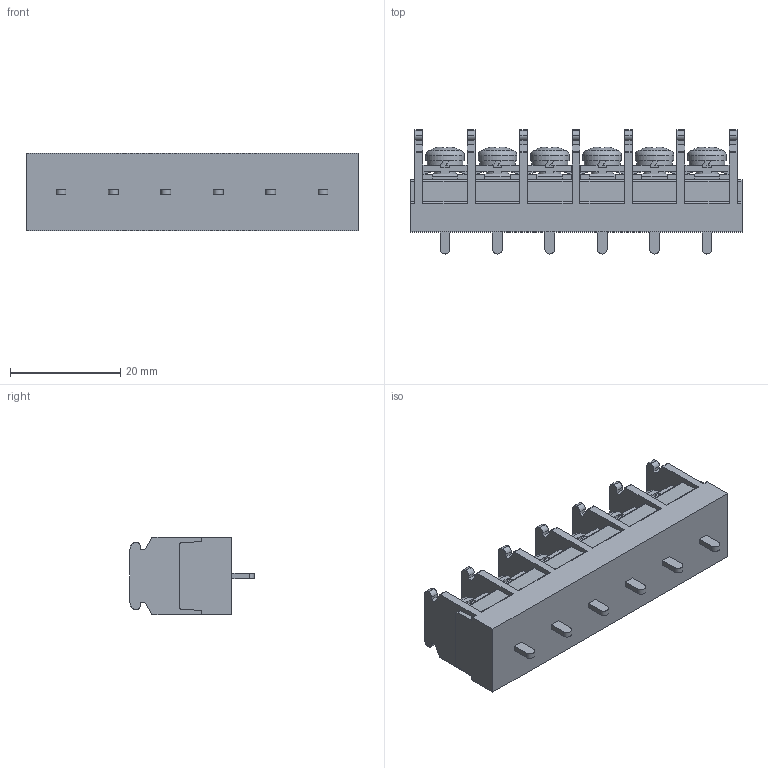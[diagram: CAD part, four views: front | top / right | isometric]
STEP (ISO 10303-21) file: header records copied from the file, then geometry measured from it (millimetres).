
FILE_DESCRIPTION(/* description */ ('Alibre Inc.'),/* implementation_level */ '2;1');
FILE_NAME(/* name */ 'export-2483E83A-8E2D-4081-996A-A3AE911307F8',/* time_stamp */ '2021-02-13T14:00:01+09:00',/* author */ (''),/* organization */ (''),/* preprocessor_version */ 'ST-DEVELOPER v17',/* originating_system */ 'Alibre',/* authorisation */ '');
FILE_SCHEMA (('CONFIG_CONTROL_DESIGN'));
Length unit declared in the file: millimetre
Bounding box: 60.2 x 22.5 x 14 mm (x, y, z)
Volume: 10218.9 mm3; surface area: 7031.1 mm2
Topology: 1 solids, 23 shells, 1104 faces, 3072 edges, 2022 vertices
Faces by surface type: plane 816, cylinder 136, bspline 104, cone 30, torus 12, sphere 6
Full cylindrical faces by diameter (mm): 4 x12, 7 x6
Entity records: 33773 total; most frequent: CARTESIAN_POINT 7138, ORIENTED_EDGE 6048, DIRECTION 4288, EDGE_CURVE 3024, VECTOR 2220, LINE 2220, VERTEX_POINT 2010, AXIS2_PLACEMENT_3D 1420
